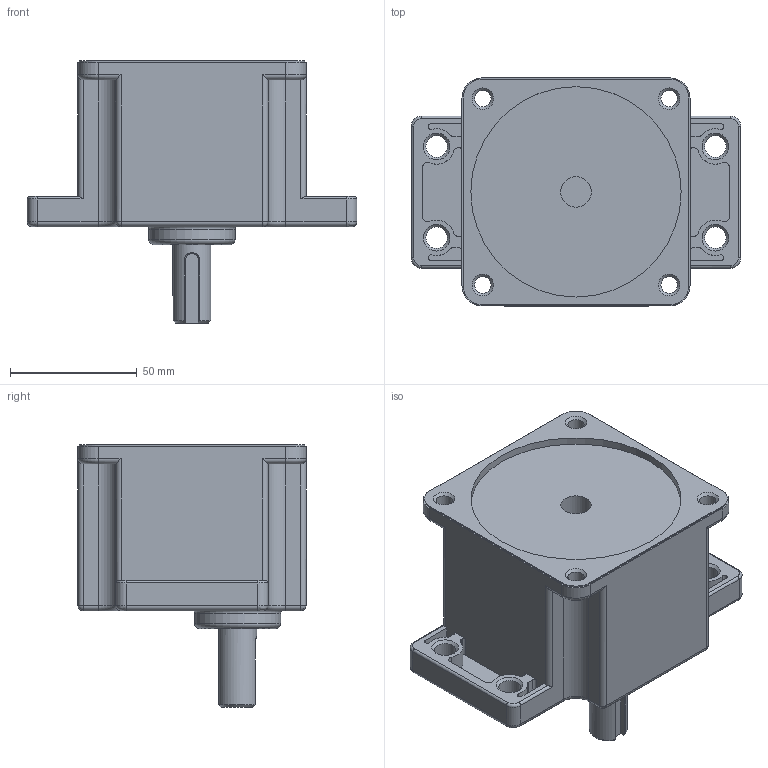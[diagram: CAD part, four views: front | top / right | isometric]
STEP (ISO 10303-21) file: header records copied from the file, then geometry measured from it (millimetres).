
FILE_DESCRIPTION((''),'2;1');
FILE_NAME('D:\작업\흐힠~\3D 모델링\S9KC_BH-S_.stp','2013-11-27T10:48:25',('jy-jung'),(''),'Autodesk Inventor 2011','Autodesk Inventor 2011','');
FILE_SCHEMA(('AUTOMOTIVE_DESIGN { 1 0 10303 214 1 1 1 1 }'));
Length unit declared in the file: millimetre
Products named in the file (1): 부품8
Bounding box: 130 x 90 x 103.5 mm (x, y, z)
Volume: 484588.8 mm3; surface area: 51135.8 mm2
Topology: 1 solids, 1 shells, 202 faces, 512 edges, 317 vertices
Faces by surface type: cylinder 99, plane 61, cone 17, torus 16, bspline 5, sphere 4
Full cylindrical faces by diameter (mm): 6.5 x4, 8.5 x4, 12.1 x1, 15 x1, 34 x1, 83 x1
Entity records: 6199 total; most frequent: CARTESIAN_POINT 1286, DIRECTION 1085, ORIENTED_EDGE 952, EDGE_CURVE 476, AXIS2_PLACEMENT_3D 421, VERTEX_POINT 314, EDGE_LOOP 256, VECTOR 243
